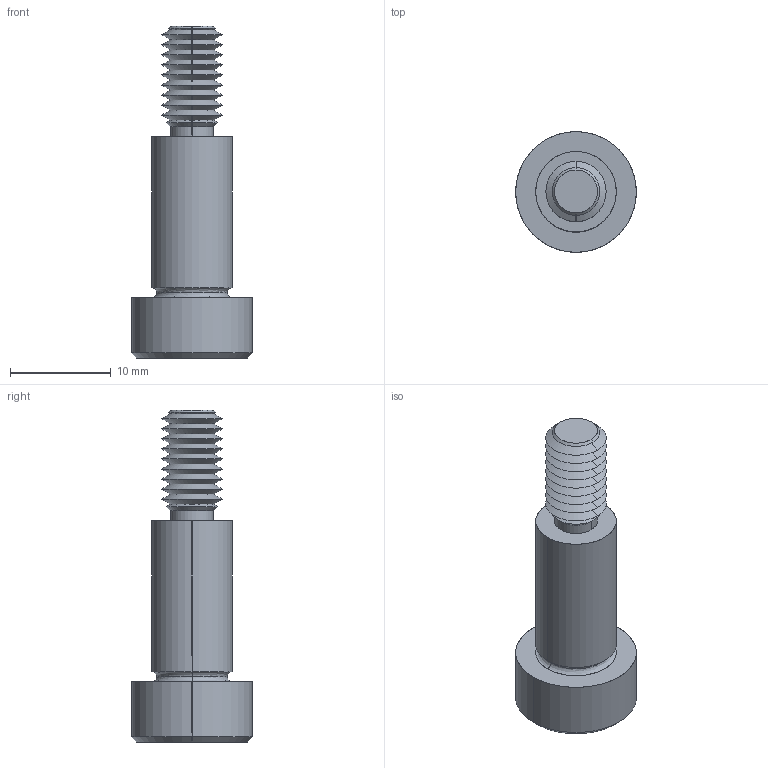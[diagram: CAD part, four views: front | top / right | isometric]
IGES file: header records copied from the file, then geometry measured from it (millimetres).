
Start section: SolidWorks IGES file using analytic representation for surfaces
Global section: file name: C:\Users\IanO\Documents\Temp Folder\GENERAL\SCREW REVISION\P0130_v2\P0130.T5_v2_20220106_IGES\P0130.080-016-T5.igs; native system: SolidWorks 2019; preprocessor: SolidWorks 2019; author: IanO; date: 220106.223320; units: millimetre
Bounding box: 12 x 12 x 33 mm (x, y, z)
Surface area: 1238.4 mm2 (no closed solid volume)
Topology: 0 solids, 0 shells, 80 faces, 580 edges, 578 vertices
Faces by surface type: revolution 60, bspline 20
